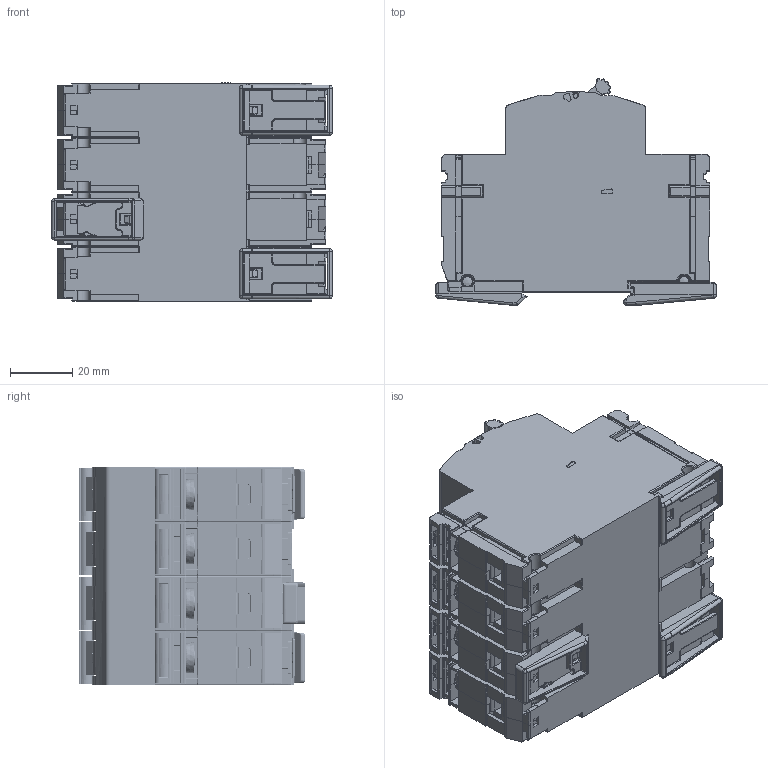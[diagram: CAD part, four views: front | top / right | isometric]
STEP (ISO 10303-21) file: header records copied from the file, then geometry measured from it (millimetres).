
FILE_DESCRIPTION (( 'STEP AP214' ), '1' );
FILE_NAME ('LPN-4_zj2.step', '2013-06-24T09:52:30', ( 'Siemens' ), ( 'Siemens' ), 'SwSTEP 2.0', 'SolidWorks 2011', '' );
FILE_SCHEMA (( 'AUTOMOTIVE_DESIGN' ));
Length unit declared in the file: millimetre
Products named in the file (1): LPN-4_zj2
Bounding box: 90.21 x 72.92 x 70.13 mm (x, y, z)
Volume: 302528.5 mm3; surface area: 60896.5 mm2
Topology: 1 solids, 13 shells, 6141 faces, 17440 edges, 11103 vertices
Faces by surface type: plane 3399, cylinder 1869, torus 375, bspline 256, cone 130, sphere 112
Entity records: 299564 total; most frequent: CARTESIAN_POINT 84363, ORIENTED_EDGE 34536, DIRECTION 25036, EDGE_CURVE 17268, VERTEX_POINT 11097, LINE 10734, VECTOR 10734, AXIS2_PLACEMENT_3D 7151
